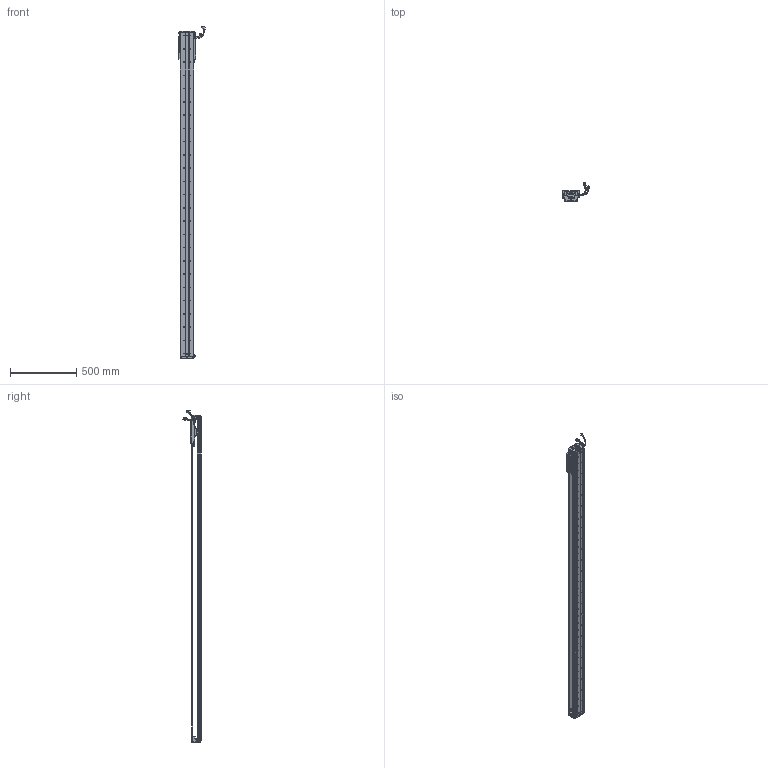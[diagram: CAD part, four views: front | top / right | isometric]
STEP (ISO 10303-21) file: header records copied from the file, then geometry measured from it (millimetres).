
FILE_DESCRIPTION (( 'STEP AP203' ), '1' );
FILE_NAME ('Z2-RY100D-1-L500-B-K.SLDASM_2200.step', '2021-05-17T02:37:29', ( '盈信电脑' ), ( '东莞市道滘镇水果街19号' ), 'SwSTEP 2.0', 'SolidWorks 2016', '' );
FILE_SCHEMA (( 'CONFIG_CONTROL_DESIGN' ));
Length unit declared in the file: millimetre
Products named in the file (36): SCALE; PSLH080_PSLF2; 140雄赽晤鎢ん堤盄; SEAL; HARNESS-Part-1; SCREW-M1.6-1; SEAL-Part-1; Z-100詩湍傷裔啣; 100-Z-臏賑輸盄裔(21遴); PBU_SHEET; Z2-RY100铝滑块（21款）; 080黍杅芛假蚾釱21遴; HOLDER0; 140蚥薯蝶輸; 榋妏寠巭燃_暯_M2_2; SCREW-M1.7; Z2-RY100-L500詩湍90mm遵_2200; SCALE-Part-1; Z-RY100D詩湍奻揤裔; HARNESS-Part-2; 覜茼ん672; Z-RY100D詩湍狟揤裔; HARNESS; SCREW-M1.7-1; SCALE-Part-2; COVER; LABEL-Part-1; SCREW-M1.6-3; SCREW-M1.6-2; SCREW-M1.6; Z2-RY100D-1-L500-B-K.SLDASM_2200; COVER-Part-1; SHIELDPLATE; Z2-RY100D-500-倰第菁釱_2200; Z-RY100D覜茼んえ; LABEL
Assembly tree (43 placements, depth 4):
  Z2-RY100D-1-L500-B-K.SLDASM_2200
    Z2-RY100D-500-倰第菁釱_2200
    Z2-RY100铝滑块（21款）
    PSLH080_PSLF2
      SCALE
        SCALE-Part-1
        SCALE-Part-2
      HARNESS
        HARNESS-Part-1
        HARNESS-Part-2
      LABEL
        LABEL-Part-1
      COVER
        COVER-Part-1
      SEAL
        SEAL-Part-1
      榋妏寠巭燃_暯_M2_2
      SHIELDPLATE
      SCREW-M1.7
      SCREW-M1.7-1
      PBU_SHEET
      SCREW-M1.6
      SCREW-M1.6-1
      SCREW-M1.6-2
      SCREW-M1.6-3
      HOLDER0
    080黍杅芛假蚾釱21遴
    Z-100詩湍傷裔啣  x2
    140蚥薯蝶輸  x2
    覜茼ん672  x3
    Z-RY100D覜茼んえ  x3
    100-Z-臏賑輸盄裔(21遴)
    140雄赽晤鎢ん堤盄
    Z2-RY100-L500詩湍90mm遵_2200
    Z-RY100D詩湍狟揤裔  x2
    Z-RY100D詩湍奻揤裔  x2
Bounding box: 205.84 x 136.11 x 2505.43 mm (x, y, z)
Volume: 4529188.9 mm3; surface area: 1796381.5 mm2
Topology: 38 solids, 38 shells, 2948 faces, 8025 edges, 5124 vertices
Faces by surface type: cylinder 1430, plane 1178, cone 218, torus 69, bspline 53
Entity records: 84941 total; most frequent: CARTESIAN_POINT 17832, DIRECTION 13657, ORIENTED_EDGE 12946, EDGE_CURVE 6473, AXIS2_PLACEMENT_3D 5121, VERTEX_POINT 4192, VECTOR 3415, LINE 3415
